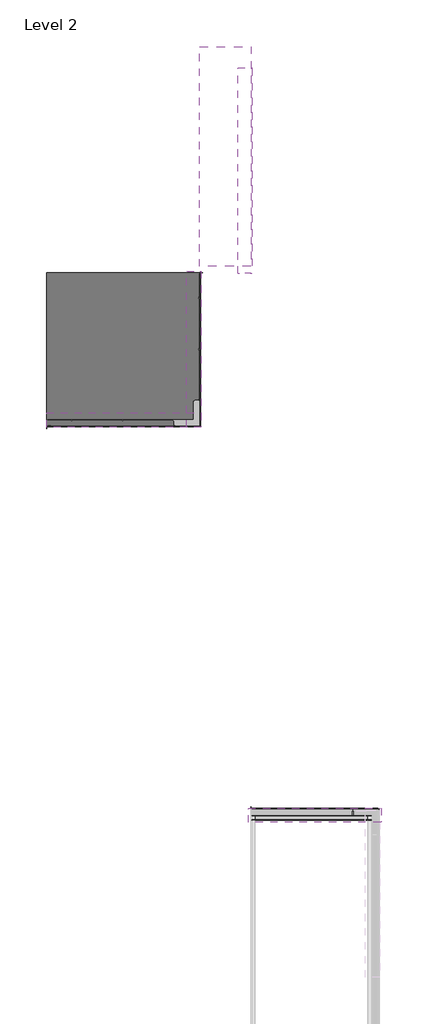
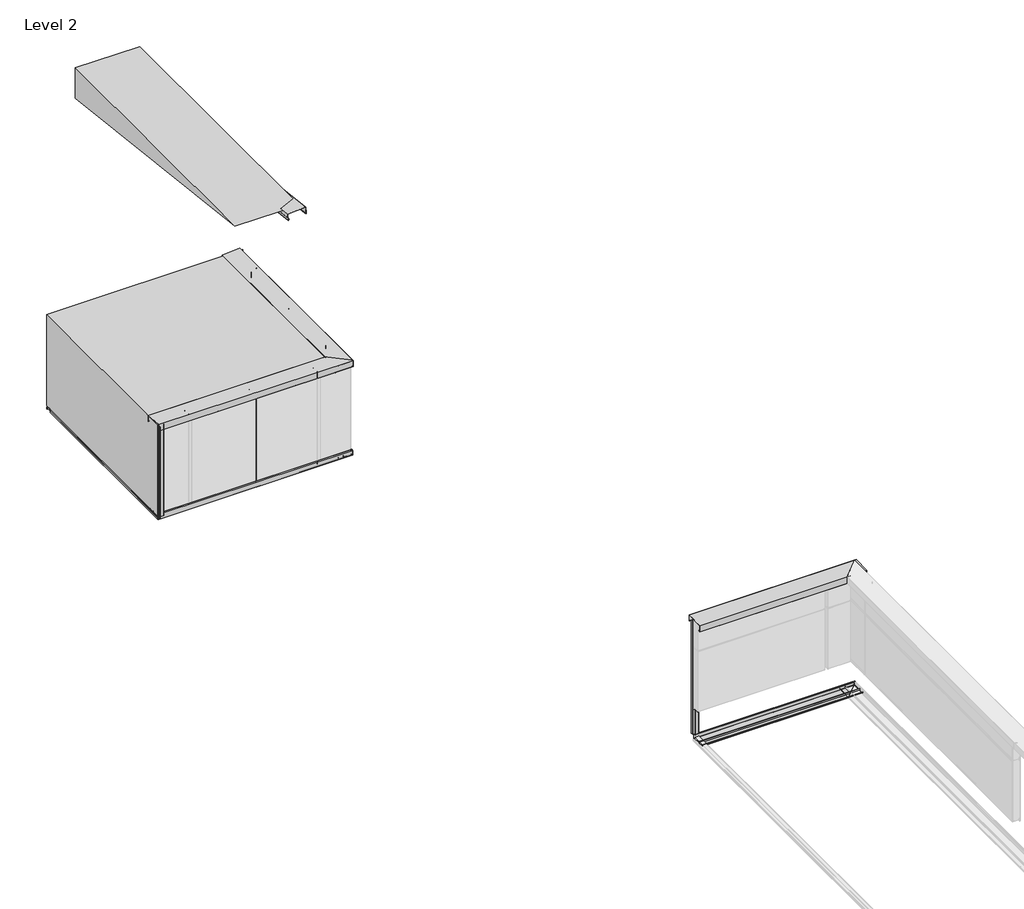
# One storey, part 2 of 2: 12 beams, 2 proxies.
"""IFC4 building model written with IfcOpenShell, lengths in millimetres."""

from ifc_helpers import new_model, si_unit, frame, origin, place, context, project, spatial, polyline, outline, extrude, faceted_brep, transform, mapped, element, save
from components import internal_corner_3a0d7155

model = new_model("IFC4")

# Units and contexts
model_context = context("Model", 3, world=origin())
ifc_project = project(units=[si_unit("LENGTHUNIT", "METRE", prefix="MILLI")], contexts=[model_context])

# Site, building, storey
site = spatial("IfcSite", under=ifc_project)
building = spatial("IfcBuilding", under=site)
storey = spatial("IfcBuildingStorey", under=building, Name="Level 2", Elevation=4000.0)

# Beams
placement = place(None, origin())
element("IfcBeam", 1, ObjectType="TI-V-05_01_Internal corner i_BEAM : Internal corner", at=placement, inside=storey, context=model_context, shape_type="SweptSolid", body=[
    extrude(outline(polyline([(-7916.9160895, 951.1599295), (-7912.1538191, 968.9329647), (-7909.4492268, 968.2082714), (-7914.8085749, 948.2069121), (-7989.7155057, 948.2069121), (-7989.7155057, 918.2069121), (-7992.5155057, 918.2069121), (-7992.5155057, 938.6069121), (-7991.7155057, 938.6069121), (-7991.7155057, 919.0069121), (-7990.5155057, 919.0069121), (-7990.5155057, 949.0069121), (-7915.4224364, 949.0069121), (-7910.4290227, 967.6425859), (-7911.5881337, 967.9531688), (-7916.1433489, 950.9528743), (-7916.9160895, 951.1599295)])), frame((0.0, 0.0, 4150.0), z_axis=(0.0, 0.0, 1.0), x_axis=(1.0, 0.0, 0.0)), (0.0, 0.0, 1.0), 1500.0),
    extrude(outline(polyline([(-7913.653786, 967.2069121), (-7963.1324958, 967.2069121), (-7963.1324958, 968.0069121), (-7912.6112057, 968.0069121), (-7916.6284112, 953.0144971), (-7917.4011518, 953.2215524), (-7913.653786, 967.2069121)])), frame((0.0, 0.0, 4150.0), z_axis=(0.0, 0.0, 1.0), x_axis=(1.0, 0.0, 0.0)), (0.0, 0.0, 1.0), 1500.0),
])
element("IfcBeam", 2, ObjectType="TI-V-05_01_Internal corner i_BEAM : Internal corner", at=placement, inside=storey, context=model_context, shape_type="SweptSolid", body=[
    extrude(outline(polyline([(-4975.668523, 3892.407496), (-4975.4614678, 3891.6347554), (-4992.4617623, 3887.0795402), (-4992.1511795, 3885.9204292), (-4973.5155057, 3890.9138429), (-4973.5155057, 3966.0069121), (-4943.5155057, 3966.0069121), (-4943.5155057, 3967.2069121), (-4963.1155057, 3967.2069121), (-4963.1155057, 3968.0069121), (-4942.7155057, 3968.0069121), (-4942.7155057, 3965.2069121), (-4972.7155057, 3965.2069121), (-4972.7155057, 3890.2999813), (-4992.7168649, 3884.9406333), (-4993.4415582, 3887.6452256), (-4975.668523, 3892.407496)])), frame((0.0, 0.0, 4150.0), z_axis=(0.0, 0.0, 1.0), x_axis=(1.0, 0.0, 0.0)), (0.0, 0.0, 1.0), 1500.0),
    extrude(outline(polyline([(-4991.7155057, 3889.1451925), (-4977.7301459, 3892.8925583), (-4977.5230906, 3892.1198177), (-4992.5155057, 3888.1026122), (-4992.5155057, 3938.6239023), (-4991.7155057, 3938.6239023), (-4991.7155057, 3889.1451925)])), frame((0.0, 0.0, 4150.0), z_axis=(0.0, 0.0, 1.0), x_axis=(1.0, 0.0, 0.0)), (0.0, 0.0, 1.0), 1500.0),
])
element("IfcBeam", 3, ObjectType="TI-V-05_01_Internal corner i_BEAM : Internal corner", at=placement, inside=storey, context=model_context, shape_type="SweptSolid", body=[
    extrude(outline(polyline([(4131.5530174, -7916.9160895), (4131.3459621, -7916.1433489), (4148.3462567, -7911.5881337), (4148.0356738, -7910.4290227), (4129.4, -7915.4224364), (4129.4, -7990.5155057), (4099.4, -7990.5155057), (4099.4, -7991.7155057), (4119.0, -7991.7155057), (4119.0, -7992.5155057), (4098.6, -7992.5155057), (4098.6, -7989.7155057), (4128.6, -7989.7155057), (4128.6, -7914.8085749), (4148.6013592, -7909.4492268), (4149.3260526, -7912.1538191), (4131.5530174, -7916.9160895)])), frame((0.0, 969.6069121, 0.0), z_axis=(0.0, 1.0, 0.0), x_axis=(0.0, 0.0, 1.0)), (0.0, 0.0, 1.0), 2902.6337211),
    extrude(outline(polyline([(4147.6, -7913.653786), (4133.6146402, -7917.4011518), (4133.407585, -7916.6284112), (4148.4, -7912.6112057), (4148.4, -7963.1324958), (4147.6, -7963.1324958), (4147.6, -7913.653786)])), frame((0.0, 969.6069121, 0.0), z_axis=(0.0, 1.0, 0.0), x_axis=(0.0, 0.0, 1.0)), (0.0, 0.0, 1.0), 2902.6337211),
])
element("IfcBeam", 4, ObjectType="TI-V-05_01_Internal corner i_BEAM : Internal corner", at=placement, inside=storey, context=model_context, shape_type="SweptSolid", body=[
    extrude(outline(polyline([(3892.407496, 4131.5530174), (3891.6347554, 4131.3459621), (3887.0795402, 4148.3462567), (3885.9204292, 4148.0356738), (3890.9138429, 4129.4), (3966.0069121, 4129.4), (3966.0069121, 4099.4), (3967.2069121, 4099.4), (3967.2069121, 4119.0), (3968.0069121, 4119.0), (3968.0069121, 4098.6), (3965.2069121, 4098.6), (3965.2069121, 4128.6), (3890.2999813, 4128.6), (3884.9406333, 4148.6013592), (3887.6452256, 4149.3260526), (3892.407496, 4131.5530174)])), frame((-7994.1155057, 0.0, 0.0), z_axis=(1.0, 0.0, 0.0), x_axis=(0.0, 1.0, 0.0)), (0.0, 0.0, 1.0), 3000.0),
    extrude(outline(polyline([(3889.1451925, 4147.6), (3892.8925583, 4133.6146402), (3892.1198177, 4133.407585), (3888.1026122, 4148.4), (3938.6239023, 4148.4), (3938.6239023, 4147.6), (3889.1451925, 4147.6)])), frame((-7994.1155057, 0.0, 0.0), z_axis=(1.0, 0.0, 0.0), x_axis=(0.0, 1.0, 0.0)), (0.0, 0.0, 1.0), 3000.0),
])
internal_corner_shape = internal_corner_3a0d7155(model_context)
element("IfcBeam", 5, ObjectType="TE-H-05_02_Internal corner i_BEAM : Internal corner", at=placement, inside=storey, context=model_context, shape_type="MappedRepresentation", body=[
    mapped(internal_corner_shape, transform((-3994.1155057, -6530.3930879, 4650.0), x_axis=(0.0, 0.0, -1.0), y_axis=(1.0, 0.0, 0.0), z_axis=(0.0, -1.0, 0.0))),
])
element("IfcBeam", 6, ObjectType="TI-V-03_01_Top parapet_BEAM : Top parapet", at=placement, inside=storey, context=model_context, shape_type="Brep", body=[
    faceted_brep([(-4970.7155057, 964.0017389, 5587.9605122), (-4970.7155057, 947.0069121, 5570.9656854), (-4970.7155057, 947.0069121, 5669.5784879), (-4970.7155057, 1222.2069121, 5655.1558671), (-4970.7155057, 1222.2069121, 5556.5011383), (-4970.7155057, 1205.2120853, 5573.4959652), (-4970.7155057, 1204.6463999, 5572.9302797), (-4970.7155057, 1223.0069121, 5554.5697675), (-4970.7155057, 1223.0069121, 5655.9150387), (-4970.7155057, 946.2069121, 5670.4215121), (-4970.7155057, 946.2069121, 5569.0343146), (-4970.7155057, 964.5674244, 5587.3948268), (-7994.1155057, 964.0017389, 5587.9605122), (-7994.1155057, 964.5674244, 5587.3948268), (-7994.1155057, 946.2069121, 5569.0343146), (-7994.1155057, 946.2069121, 5670.4215121), (-7994.1155057, 1223.0069121, 5655.9150387), (-7994.1155057, 1223.0069121, 5554.5697675), (-7994.1155057, 1204.6463999, 5572.9302797), (-7994.1155057, 1205.2120853, 5573.4959652), (-7994.1155057, 1222.2069121, 5556.5011383), (-7994.1155057, 1222.2069121, 5655.1558671), (-7994.1155057, 947.0069121, 5669.5784879), (-7994.1155057, 947.0069121, 5570.9656854)], [[[0, 1, 2, 3, 4, 5, 6, 7, 8, 9, 10, 11]], [[12, 13, 14, 15, 16, 17, 18, 19, 20, 21, 22, 23]], [[1, 0, 12, 23]], [[2, 1, 23, 22]], [[3, 2, 22, 21]], [[4, 3, 21, 20]], [[5, 4, 20, 19]], [[6, 5, 19, 18]], [[7, 6, 18, 17]], [[8, 7, 17, 16]], [[9, 8, 16, 15]], [[10, 9, 15, 14]], [[11, 10, 14, 13]], [[0, 11, 13, 12]]]),
    faceted_brep([(-7994.1155057, 964.0017389, 5587.9605122), (-7994.1155057, 964.5674244, 5587.3948268), (-7994.1155057, 946.2069121, 5569.0343146), (-7994.1155057, 946.2069121, 5670.4215121), (-7994.1155057, 1223.0069121, 5655.9150387), (-7994.1155057, 1223.0069121, 5554.5697675), (-7994.1155057, 1204.6463999, 5572.9302797), (-7994.1155057, 1205.2120853, 5573.4959652), (-7994.1155057, 1222.2069121, 5556.5011383), (-7994.1155057, 1222.2069121, 5655.1558671), (-7994.1155057, 947.0069121, 5669.5784879), (-7994.1155057, 947.0069121, 5570.9656854), (-4989.0760179, 964.5674244, 5587.3948268), (-4988.5103325, 964.0017389, 5587.9605122), (-4970.7155057, 946.2069121, 5569.0343146), (-4970.7155057, 946.2069121, 5670.4215121), (-5247.5155057, 1223.0069121, 5655.9150387), (-5247.5155057, 1223.0069121, 5554.5697675), (-5229.1549934, 1204.6463999, 5572.9302797), (-5229.7206788, 1205.2120853, 5573.4959652), (-5246.7155057, 1222.2069121, 5556.5011383), (-5246.7155057, 1222.2069121, 5655.1558671), (-4971.5155057, 947.0069121, 5669.5784879), (-4971.5155057, 947.0069121, 5570.9656854)], [[[0, 1, 2, 3, 4, 5, 6, 7, 8, 9, 10, 11]], [[12, 1, 0, 13]], [[14, 2, 1, 12]], [[15, 3, 2, 14]], [[16, 4, 3, 15]], [[17, 5, 4, 16]], [[18, 6, 5, 17]], [[19, 7, 6, 18]], [[20, 8, 7, 19]], [[21, 9, 8, 20]], [[22, 10, 9, 21]], [[23, 11, 10, 22]], [[13, 0, 11, 23]], [[13, 23, 22, 21, 20, 19, 18, 17, 16, 15, 14, 12]]]),
])
element("IfcBeam", 7, ObjectType="TI-V-03_01_Top parapet_BEAM : Top parapet", at=placement, inside=storey, context=model_context, shape_type="Brep", body=[
    faceted_brep([(-4988.5103325, 3993.0069121, 5587.9605122), (-4971.5155057, 3993.0069121, 5570.9656854), (-4971.5155057, 3993.0069121, 5669.5784879), (-5246.7155057, 3993.0069121, 5655.1558671), (-5246.7155057, 3993.0069121, 5556.5011383), (-5229.7206788, 3993.0069121, 5573.4959652), (-5229.1549934, 3993.0069121, 5572.9302797), (-5247.5155057, 3993.0069121, 5554.5697675), (-5247.5155057, 3993.0069121, 5655.9150387), (-4970.7155057, 3993.0069121, 5670.4215121), (-4970.7155057, 3993.0069121, 5569.0343146), (-4989.0760179, 3993.0069121, 5587.3948268), (-4988.5103325, 946.2069121, 5587.9605122), (-4989.0760179, 946.2069121, 5587.3948268), (-4970.7155057, 946.2069121, 5569.0343146), (-4970.7155057, 946.2069121, 5670.4215121), (-5247.5155057, 946.2069121, 5655.9150387), (-5247.5155057, 946.2069121, 5554.5697675), (-5229.1549934, 946.2069121, 5572.9302797), (-5229.7206788, 946.2069121, 5573.4959652), (-5246.7155057, 946.2069121, 5556.5011383), (-5246.7155057, 946.2069121, 5655.1558671), (-4971.5155057, 946.2069121, 5669.5784879), (-4971.5155057, 946.2069121, 5570.9656854)], [[[0, 1, 2, 3, 4, 5, 6, 7, 8, 9, 10, 11]], [[12, 13, 14, 15, 16, 17, 18, 19, 20, 21, 22, 23]], [[1, 0, 12, 23]], [[2, 1, 23, 22]], [[3, 2, 22, 21]], [[4, 3, 21, 20]], [[5, 4, 20, 19]], [[6, 5, 19, 18]], [[7, 6, 18, 17]], [[8, 7, 17, 16]], [[9, 8, 16, 15]], [[10, 9, 15, 14]], [[11, 10, 14, 13]], [[0, 11, 13, 12]]]),
    faceted_brep([(-4988.5103325, 3993.0069121, 5587.9605122), (-4971.5155057, 3993.0069121, 5570.9656854), (-4971.5155057, 3993.0069121, 5669.5784879), (-5246.7155057, 3993.0069121, 5655.1558671), (-5246.7155057, 3993.0069121, 5556.5011383), (-5229.7206788, 3993.0069121, 5573.4959652), (-5229.1549934, 3993.0069121, 5572.9302797), (-5247.5155057, 3993.0069121, 5554.5697675), (-5247.5155057, 3993.0069121, 5655.9150387), (-4970.7155057, 3993.0069121, 5670.4215121), (-4970.7155057, 3993.0069121, 5569.0343146), (-4989.0760179, 3993.0069121, 5587.3948268), (-4988.5103325, 964.0017389, 5587.9605122), (-4971.5155057, 947.0069121, 5570.9656854), (-4971.5155057, 947.0069121, 5669.5784879), (-5246.7155057, 1222.2069121, 5655.1558671), (-5246.7155057, 1222.2069121, 5556.5011383), (-5229.7206788, 1205.2120853, 5573.4959652), (-5229.1549934, 1204.6463999, 5572.9302797), (-5247.5155057, 1223.0069121, 5554.5697675), (-5247.5155057, 1223.0069121, 5655.9150387), (-4970.7155057, 946.2069121, 5670.4215121), (-4970.7155057, 946.2069121, 5569.0343146), (-4989.0760179, 964.5674244, 5587.3948268)], [[[0, 1, 2, 3, 4, 5, 6, 7, 8, 9, 10, 11]], [[1, 0, 12, 13]], [[2, 1, 13, 14]], [[3, 2, 14, 15]], [[4, 3, 15, 16]], [[5, 4, 16, 17]], [[6, 5, 17, 18]], [[7, 6, 18, 19]], [[8, 7, 19, 20]], [[9, 8, 20, 21]], [[10, 9, 21, 22]], [[11, 10, 22, 23]], [[0, 11, 23, 12]], [[13, 12, 23, 22, 21, 20, 19, 18, 17, 16, 15, 14]]]),
])
element("IfcBeam", 8, ObjectType="TE-H-03_02_Top parapet_BEAM : Top parapet", at=placement, inside=storey, context=model_context, shape_type="Brep", body=[
    faceted_brep([(-4040.7817612, -6524.7879147, 5592.9605122), (-4040.7817612, -6507.7930879, 5575.9656854), (-4040.7817612, -6507.7930879, 5674.5784879), (-4040.7817612, -6782.9930879, 5660.1558671), (-4040.7817612, -6782.9930879, 5561.5011383), (-4040.7817612, -6765.9982611, 5578.4959652), (-4040.7817612, -6765.4325756, 5577.9302797), (-4040.7817612, -6783.7930879, 5559.5697675), (-4040.7817612, -6783.7930879, 5660.9150387), (-4040.7817612, -6506.9930879, 5675.4215121), (-4040.7817612, -6506.9930879, 5574.0343146), (-4040.7817612, -6525.3536001, 5592.3948268), (-1441.3876719, -6524.7879147, 5592.9605122), (-1441.3876719, -6525.3536001, 5592.3948268), (-1441.3876719, -6506.9930879, 5574.0343146), (-1441.3876719, -6506.9930879, 5675.4215121), (-1441.3876719, -6783.7930879, 5660.9150387), (-1441.3876719, -6783.7930879, 5559.5697675), (-1441.3876719, -6765.4325756, 5577.9302797), (-1441.3876719, -6765.9982611, 5578.4959652), (-1441.3876719, -6782.9930879, 5561.5011383), (-1441.3876719, -6782.9930879, 5660.1558671), (-1441.3876719, -6507.7930879, 5674.5784879), (-1441.3876719, -6507.7930879, 5575.9656854)], [[[0, 1, 2, 3, 4, 5, 6, 7, 8, 9, 10, 11]], [[12, 13, 14, 15, 16, 17, 18, 19, 20, 21, 22, 23]], [[1, 0, 12, 23]], [[2, 1, 23, 22]], [[3, 2, 22, 21]], [[4, 3, 21, 20]], [[5, 4, 20, 19]], [[6, 5, 19, 18]], [[7, 6, 18, 17]], [[8, 7, 17, 16]], [[9, 8, 16, 15]], [[10, 9, 15, 14]], [[11, 10, 14, 13]], [[0, 11, 13, 12]]]),
    faceted_brep([(-4040.7817612, -6524.7879147, 5592.9605122), (-4040.7817612, -6507.7930879, 5575.9656854), (-4040.7817612, -6507.7930879, 5674.5784879), (-4040.7817612, -6782.9930879, 5660.1558671), (-4040.7817612, -6782.9930879, 5561.5011383), (-4040.7817612, -6765.9982611, 5578.4959652), (-4040.7817612, -6765.4325756, 5577.9302797), (-4040.7817612, -6783.7930879, 5559.5697675), (-4040.7817612, -6783.7930879, 5660.9150387), (-4040.7817612, -6506.9930879, 5675.4215121), (-4040.7817612, -6506.9930879, 5574.0343146), (-4040.7817612, -6525.3536001, 5592.3948268), (-1488.5092352, -6524.7879147, 5592.9605122), (-1471.5144084, -6507.7930879, 5575.9656854), (-1471.5144084, -6507.7930879, 5674.5784879), (-1746.7144084, -6782.9930879, 5660.1558671), (-1746.7144084, -6782.9930879, 5561.5011383), (-1729.7195816, -6765.9982611, 5578.4959652), (-1729.1538961, -6765.4325756, 5577.9302797), (-1747.5144084, -6783.7930879, 5559.5697675), (-1747.5144084, -6783.7930879, 5660.9150387), (-1470.7144084, -6506.9930879, 5675.4215121), (-1470.7144084, -6506.9930879, 5574.0343146), (-1489.0749206, -6525.3536001, 5592.3948268)], [[[0, 1, 2, 3, 4, 5, 6, 7, 8, 9, 10, 11]], [[1, 0, 12, 13]], [[2, 1, 13, 14]], [[3, 2, 14, 15]], [[4, 3, 15, 16]], [[5, 4, 16, 17]], [[6, 5, 17, 18]], [[7, 6, 18, 19]], [[8, 7, 19, 20]], [[9, 8, 20, 21]], [[10, 9, 21, 22]], [[11, 10, 22, 23]], [[0, 11, 23, 12]], [[13, 12, 23, 22, 21, 20, 19, 18, 17, 16, 15, 14]]]),
])
element("IfcBeam", 9, ObjectType="TI-V-03_01_Top parapet_BEAM : Top parapet", at=placement, inside=storey, context=model_context, shape_type="Brep", body=[
    faceted_brep([(-3988.5103325, 7962.441298, 5467.2129283), (-3971.5155057, 7960.4783809, 5450.3318413), (-3971.5155057, 7971.8682442, 5548.2846659), (-4246.7155057, 7970.2024191, 5533.9585701), (-4246.7155057, 7958.8077133, 5435.9641), (-4229.7206788, 7960.7706304, 5452.8451869), (-4229.1549934, 7960.7052932, 5452.2832874), (-4247.5155057, 7958.5846383, 5434.0456551), (-4247.5155057, 7970.2901041, 5534.712661), (-3970.7155057, 7971.9656142, 5549.1220479), (-3970.7155057, 7960.2553059, 5448.4133964), (-3989.0760179, 7962.3759608, 5466.6510287), (-3988.5103325, 3946.084948, 5934.2311085), (-3989.0760179, 3946.0196108, 5933.669209), (-3970.7155057, 3943.8989559, 5915.4315767), (-3970.7155057, 3955.6092642, 6016.1402282), (-4247.5155057, 3953.9337541, 6001.7308412), (-4247.5155057, 3942.2282883, 5901.0638353), (-4229.1549934, 3944.3489432, 5919.3014676), (-4229.7206788, 3944.4142804, 5919.8633671), (-4246.7155057, 3942.4513633, 5902.9822802), (-4246.7155057, 3953.8460691, 6000.9767504), (-3971.5155057, 3955.5118942, 6015.3028461), (-3971.5155057, 3944.1220309, 5917.3500216)], [[[0, 1, 2, 3, 4, 5, 6, 7, 8, 9, 10, 11]], [[12, 13, 14, 15, 16, 17, 18, 19, 20, 21, 22, 23]], [[1, 0, 12, 23]], [[2, 1, 23, 22]], [[3, 2, 22, 21]], [[4, 3, 21, 20]], [[5, 4, 20, 19]], [[6, 5, 19, 18]], [[7, 6, 18, 17]], [[8, 7, 17, 16]], [[9, 8, 16, 15]], [[10, 9, 15, 14]], [[11, 10, 14, 13]], [[0, 11, 13, 12]]]),
    faceted_brep([(-3988.5103325, 7962.441298, 5467.2129283), (-3971.5155057, 7960.4783809, 5450.3318413), (-3971.5155057, 7971.8682442, 5548.2846659), (-4246.7155057, 7970.2024191, 5533.9585701), (-4246.7155057, 7958.8077133, 5435.9641), (-4229.7206788, 7960.7706304, 5452.8451869), (-4229.1549934, 7960.7052932, 5452.2832874), (-4247.5155057, 7958.5846383, 5434.0456551), (-4247.5155057, 7970.2901041, 5534.712661), (-3970.7155057, 7971.9656142, 5549.1220479), (-3970.7155057, 7960.2553059, 5448.4133964), (-3989.0760179, 7962.3759608, 5466.6510287), (-3988.5103325, 3964.0017389, 5932.1477607), (-3971.5155057, 3947.0069121, 5917.0145703), (-3971.5155057, 3947.0069121, 5942.16), (-3971.5155057, 3955.5118942, 6015.3028461), (-3979.9693156, 3955.4607221, 6014.8627658), (-4246.7155057, 4222.2069121, 5969.7720012), (-4246.7155057, 4222.2069121, 5870.4525652), (-4229.7206788, 4205.2120853, 5889.538041), (-4229.1549934, 4204.6463999, 5889.0343215), (-4247.5155057, 4223.0069121, 5868.4151581), (-4247.5155057, 4223.0069121, 5970.4432647), (-3980.0612864, 3955.5526929, 6015.6537146), (-3970.7155057, 3955.6092642, 6016.1402282), (-3970.7155057, 3946.2069121, 5935.28), (-3970.7155057, 3946.2069121, 5915.1632097), (-3989.0760179, 3964.5674244, 5931.5124865)], [[[0, 1, 2, 3, 4, 5, 6, 7, 8, 9, 10, 11]], [[1, 0, 12, 13]], [[2, 1, 13, 14, 15]], [[3, 2, 15, 16, 17]], [[4, 3, 17, 18]], [[5, 4, 18, 19]], [[6, 5, 19, 20]], [[7, 6, 20, 21]], [[8, 7, 21, 22]], [[9, 8, 22, 23, 24]], [[10, 9, 24, 25, 26]], [[11, 10, 26, 27]], [[0, 11, 27, 12]], [[25, 24, 23, 16, 15, 14]], [[25, 14, 13, 12, 27, 26]], [[16, 23, 22, 21, 20, 19, 18, 17]]]),
])
element("IfcBeam", 10, ObjectType="TE-H-12_2_ Soffit i_BEAM : soffit", at=placement, inside=storey, context=model_context, shape_type="Brep", body=[
    faceted_brep([(-7994.1155057, 951.6425852, 4187.5217497), (-7994.1155057, 968.6428797, 4192.0769649), (-7994.1155057, 968.3322969, 4193.2360759), (-7994.1155057, 949.6966231, 4188.2426622), (-7994.1155057, 949.6966231, 4114.5152784), (-7994.1155057, 966.6914499, 4131.5101052), (-7994.1155057, 967.2571353, 4130.9444198), (-7994.1155057, 948.8966231, 4112.5839075), (-7994.1155057, 948.8966231, 4188.8565238), (-7994.1155057, 968.8979823, 4194.2158718), (-7994.1155057, 969.6226756, 4191.5112795), (-7994.1155057, 951.8496404, 4186.7490091), (-4973.4052166, 951.6425852, 4187.5217497), (-4973.4052166, 951.8496404, 4186.7490091), (-4973.4052166, 969.6226756, 4191.5112795), (-4973.4052166, 968.8979823, 4194.2158718), (-4973.4052166, 948.8966231, 4188.8565238), (-4973.4052166, 948.8966231, 4112.5839075), (-4973.4052166, 967.2571353, 4130.9444198), (-4973.4052166, 966.6914499, 4131.5101052), (-4973.4052166, 949.6966231, 4114.5152784), (-4973.4052166, 949.6966231, 4188.2426622), (-4973.4052166, 968.3322969, 4193.2360759), (-4973.4052166, 968.6428797, 4192.0769649)], [[[0, 1, 2, 3, 4, 5, 6, 7, 8, 9, 10, 11]], [[12, 13, 14, 15, 16, 17, 18, 19, 20, 21, 22, 23]], [[1, 0, 12, 23]], [[2, 1, 23, 22]], [[3, 2, 22, 21]], [[4, 3, 21, 20]], [[5, 4, 20, 19]], [[6, 5, 19, 18]], [[7, 6, 18, 17]], [[8, 7, 17, 16]], [[9, 8, 16, 15]], [[10, 9, 15, 14]], [[11, 10, 14, 13]], [[0, 11, 13, 12]]]),
    faceted_brep([(-7994.1155057, 951.595061, 4118.4538591), (-7994.1155057, 965.8543539, 4132.713152), (-7994.1155057, 1095.6200394, 4132.713152), (-7994.1155057, 1095.6200394, 4157.713152), (-7994.1155057, 1098.4200394, 4157.713152), (-7994.1155057, 1098.4200394, 4129.713152), (-7994.1155057, 1172.7131086, 4129.713152), (-7994.1155057, 1177.7065223, 4148.3488258), (-7994.1155057, 1176.5474113, 4148.6594087), (-7994.1155057, 1171.9921961, 4131.6591141), (-7994.1155057, 1171.2194555, 4131.8661694), (-7994.1155057, 1175.9817259, 4149.6392046), (-7994.1155057, 1178.6863182, 4148.9145113), (-7994.1155057, 1173.3269702, 4128.913152), (-7994.1155057, 1097.6200394, 4128.913152), (-7994.1155057, 1097.6200394, 4156.913152), (-7994.1155057, 1096.4200394, 4156.913152), (-7994.1155057, 1096.4200394, 4131.913152), (-7994.1155057, 966.1857248, 4131.913152), (-7994.1155057, 952.1607465, 4117.8881737), (-4973.4052166, 951.595061, 4118.4538591), (-4973.4052166, 952.1607465, 4117.8881737), (-4973.4052166, 966.1857248, 4131.913152), (-4973.4052166, 1096.4200394, 4131.913152), (-4973.4052166, 1096.4200394, 4156.913152), (-4973.4052166, 1097.6200394, 4156.913152), (-4973.4052166, 1097.6200394, 4128.913152), (-4973.4052166, 1173.3269702, 4128.913152), (-4973.4052166, 1178.6863182, 4148.9145113), (-4973.4052166, 1175.9817259, 4149.6392046), (-4973.4052166, 1171.2194555, 4131.8661694), (-4973.4052166, 1171.9921961, 4131.6591141), (-4973.4052166, 1176.5474113, 4148.6594087), (-4973.4052166, 1177.7065223, 4148.3488258), (-4973.4052166, 1172.7131086, 4129.713152), (-4973.4052166, 1098.4200394, 4129.713152), (-4973.4052166, 1098.4200394, 4157.713152), (-4973.4052166, 1095.6200394, 4157.713152), (-4973.4052166, 1095.6200394, 4132.713152), (-4973.4052166, 965.8543539, 4132.713152)], [[[0, 1, 2, 3, 4, 5, 6, 7, 8, 9, 10, 11, 12, 13, 14, 15, 16, 17, 18, 19]], [[20, 21, 22, 23, 24, 25, 26, 27, 28, 29, 30, 31, 32, 33, 34, 35, 36, 37, 38, 39]], [[1, 0, 20, 39]], [[2, 1, 39, 38]], [[3, 2, 38, 37]], [[4, 3, 37, 36]], [[5, 4, 36, 35]], [[6, 5, 35, 34]], [[7, 6, 34, 33]], [[8, 7, 33, 32]], [[9, 8, 32, 31]], [[10, 9, 31, 30]], [[11, 10, 30, 29]], [[12, 11, 29, 28]], [[13, 12, 28, 27]], [[14, 13, 27, 26]], [[15, 14, 26, 25]], [[16, 15, 25, 24]], [[17, 16, 24, 23]], [[18, 17, 23, 22]], [[19, 18, 22, 21]], [[0, 19, 21, 20]]]),
    faceted_brep([(-7994.1155057, 951.6425852, 4187.5217497), (-7994.1155057, 968.6428797, 4192.0769649), (-7994.1155057, 968.3322969, 4193.2360759), (-7994.1155057, 949.6966231, 4188.2426622), (-7994.1155057, 949.6966231, 4114.5152784), (-7994.1155057, 966.6914499, 4131.5101052), (-7994.1155057, 967.2571353, 4130.9444198), (-7994.1155057, 948.8966231, 4112.5839075), (-7994.1155057, 948.8966231, 4188.8565238), (-7994.1155057, 968.8979823, 4194.2158718), (-7994.1155057, 969.6226756, 4191.5112795), (-7994.1155057, 951.8496404, 4186.7490091), (-4976.1511787, 951.6425852, 4187.5217497), (-4993.1514732, 968.6428797, 4192.0769649), (-4992.8408904, 968.3322969, 4193.2360759), (-4974.2052166, 949.6966231, 4188.2426622), (-4974.2052166, 949.6966231, 4114.5152784), (-4991.2000434, 966.6914499, 4131.5101052), (-4991.7657288, 967.2571353, 4130.9444198), (-4973.4052166, 948.8966231, 4112.5839075), (-4973.4052166, 948.8966231, 4188.8565238), (-4993.4065758, 968.8979823, 4194.2158718), (-4994.1312691, 969.6226756, 4191.5112795), (-4976.3582339, 951.8496404, 4186.7490091)], [[[0, 1, 2, 3, 4, 5, 6, 7, 8, 9, 10, 11]], [[1, 0, 12, 13]], [[2, 1, 13, 14]], [[3, 2, 14, 15]], [[4, 3, 15, 16]], [[5, 4, 16, 17]], [[6, 5, 17, 18]], [[7, 6, 18, 19]], [[8, 7, 19, 20]], [[9, 8, 20, 21]], [[10, 9, 21, 22]], [[11, 10, 22, 23]], [[0, 11, 23, 12]], [[13, 12, 23, 22, 21, 20, 19, 18, 17, 16, 15, 14]]]),
    faceted_brep([(-7994.1155057, 951.595061, 4118.4538591), (-7994.1155057, 965.8543539, 4132.713152), (-7994.1155057, 1095.6200394, 4132.713152), (-7994.1155057, 1095.6200394, 4157.713152), (-7994.1155057, 1098.4200394, 4157.713152), (-7994.1155057, 1098.4200394, 4129.713152), (-7994.1155057, 1172.7131086, 4129.713152), (-7994.1155057, 1177.7065223, 4148.3488258), (-7994.1155057, 1176.5474113, 4148.6594087), (-7994.1155057, 1171.9921961, 4131.6591141), (-7994.1155057, 1171.2194555, 4131.8661694), (-7994.1155057, 1175.9817259, 4149.6392046), (-7994.1155057, 1178.6863182, 4148.9145113), (-7994.1155057, 1173.3269702, 4128.913152), (-7994.1155057, 1097.6200394, 4128.913152), (-7994.1155057, 1097.6200394, 4156.913152), (-7994.1155057, 1096.4200394, 4156.913152), (-7994.1155057, 1096.4200394, 4131.913152), (-7994.1155057, 966.1857248, 4131.913152), (-7994.1155057, 952.1607465, 4117.8881737), (-4976.1036546, 951.595061, 4118.4538591), (-4990.3629475, 965.8543539, 4132.713152), (-5120.1286329, 1095.6200394, 4132.713152), (-5120.1286329, 1095.6200394, 4157.713152), (-5122.9286329, 1098.4200394, 4157.713152), (-5122.9286329, 1098.4200394, 4129.713152), (-5197.2217021, 1172.7131086, 4129.713152), (-5202.2151158, 1177.7065223, 4148.3488258), (-5201.0560049, 1176.5474113, 4148.6594087), (-5196.5007897, 1171.9921961, 4131.6591141), (-5195.728049, 1171.2194555, 4131.8661694), (-5200.4903194, 1175.9817259, 4149.6392046), (-5203.1949117, 1178.6863182, 4148.9145113), (-5197.8355637, 1173.3269702, 4128.913152), (-5122.1286329, 1097.6200394, 4128.913152), (-5122.1286329, 1097.6200394, 4156.913152), (-5120.9286329, 1096.4200394, 4156.913152), (-5120.9286329, 1096.4200394, 4131.913152), (-4990.6943183, 966.1857248, 4131.913152), (-4976.66934, 952.1607465, 4117.8881737)], [[[0, 1, 2, 3, 4, 5, 6, 7, 8, 9, 10, 11, 12, 13, 14, 15, 16, 17, 18, 19]], [[1, 0, 20, 21]], [[2, 1, 21, 22]], [[3, 2, 22, 23]], [[4, 3, 23, 24]], [[5, 4, 24, 25]], [[6, 5, 25, 26]], [[7, 6, 26, 27]], [[8, 7, 27, 28]], [[9, 8, 28, 29]], [[10, 9, 29, 30]], [[11, 10, 30, 31]], [[12, 11, 31, 32]], [[13, 12, 32, 33]], [[14, 13, 33, 34]], [[15, 14, 34, 35]], [[16, 15, 35, 36]], [[17, 16, 36, 37]], [[18, 17, 37, 38]], [[19, 18, 38, 39]], [[0, 19, 39, 20]], [[21, 20, 39, 38, 37, 36, 35, 34, 33, 32, 31, 30, 29, 28, 27, 26, 25, 24, 23, 22]]]),
])
element("IfcBeam", 11, ObjectType="TE-H-12_2_ Soffit i_BEAM : soffit", at=placement, inside=storey, context=model_context, shape_type="Brep", body=[
    faceted_brep([(-4976.1511787, 948.8966231, 4187.5217497), (-4993.1514732, 948.8966231, 4192.0769649), (-4992.8408904, 948.8966231, 4193.2360759), (-4974.2052166, 948.8966231, 4188.2426622), (-4974.2052166, 948.8966231, 4114.5152784), (-4991.2000434, 948.8966231, 4131.5101052), (-4991.7657288, 948.8966231, 4130.9444198), (-4973.4052166, 948.8966231, 4112.5839075), (-4973.4052166, 948.8966231, 4188.8565238), (-4993.4065758, 948.8966231, 4194.2158718), (-4994.1312691, 948.8966231, 4191.5112795), (-4976.3582339, 948.8966231, 4186.7490091), (-4976.1511787, 3969.6069121, 4187.5217497), (-4976.3582339, 3969.6069121, 4186.7490091), (-4994.1312691, 3969.6069121, 4191.5112795), (-4993.4065758, 3969.6069121, 4194.2158718), (-4973.4052166, 3969.6069121, 4188.8565238), (-4973.4052166, 3969.6069121, 4112.5839075), (-4991.7657288, 3969.6069121, 4130.9444198), (-4991.2000434, 3969.6069121, 4131.5101052), (-4974.2052166, 3969.6069121, 4114.5152784), (-4974.2052166, 3969.6069121, 4188.2426622), (-4992.8408904, 3969.6069121, 4193.2360759), (-4993.1514732, 3969.6069121, 4192.0769649)], [[[0, 1, 2, 3, 4, 5, 6, 7, 8, 9, 10, 11]], [[12, 13, 14, 15, 16, 17, 18, 19, 20, 21, 22, 23]], [[1, 0, 12, 23]], [[2, 1, 23, 22]], [[3, 2, 22, 21]], [[4, 3, 21, 20]], [[5, 4, 20, 19]], [[6, 5, 19, 18]], [[7, 6, 18, 17]], [[8, 7, 17, 16]], [[9, 8, 16, 15]], [[10, 9, 15, 14]], [[11, 10, 14, 13]], [[0, 11, 13, 12]]]),
    faceted_brep([(-4976.1036546, 948.8966231, 4118.4538591), (-4990.3629475, 948.8966231, 4132.713152), (-5120.1286329, 948.8966231, 4132.713152), (-5120.1286329, 948.8966231, 4157.713152), (-5122.9286329, 948.8966231, 4157.713152), (-5122.9286329, 948.8966231, 4129.713152), (-5197.2217021, 948.8966231, 4129.713152), (-5202.2151158, 948.8966231, 4148.3488258), (-5201.0560049, 948.8966231, 4148.6594087), (-5196.5007897, 948.8966231, 4131.6591141), (-5195.728049, 948.8966231, 4131.8661694), (-5200.4903194, 948.8966231, 4149.6392046), (-5203.1949117, 948.8966231, 4148.9145113), (-5197.8355637, 948.8966231, 4128.913152), (-5122.1286329, 948.8966231, 4128.913152), (-5122.1286329, 948.8966231, 4156.913152), (-5120.9286329, 948.8966231, 4156.913152), (-5120.9286329, 948.8966231, 4131.913152), (-4990.6943183, 948.8966231, 4131.913152), (-4976.66934, 948.8966231, 4117.8881737), (-4976.1036546, 3969.6069121, 4118.4538591), (-4976.66934, 3969.6069121, 4117.8881737), (-4990.6943183, 3969.6069121, 4131.913152), (-5120.9286329, 3969.6069121, 4131.913152), (-5120.9286329, 3969.6069121, 4156.913152), (-5122.1286329, 3969.6069121, 4156.913152), (-5122.1286329, 3969.6069121, 4128.913152), (-5197.8355637, 3969.6069121, 4128.913152), (-5203.1949117, 3969.6069121, 4148.9145113), (-5200.4903194, 3969.6069121, 4149.6392046), (-5195.728049, 3969.6069121, 4131.8661694), (-5196.5007897, 3969.6069121, 4131.6591141), (-5201.0560049, 3969.6069121, 4148.6594087), (-5202.2151158, 3969.6069121, 4148.3488258), (-5197.2217021, 3969.6069121, 4129.713152), (-5122.9286329, 3969.6069121, 4129.713152), (-5122.9286329, 3969.6069121, 4157.713152), (-5120.1286329, 3969.6069121, 4157.713152), (-5120.1286329, 3969.6069121, 4132.713152), (-4990.3629475, 3969.6069121, 4132.713152)], [[[0, 1, 2, 3, 4, 5, 6, 7, 8, 9, 10, 11, 12, 13, 14, 15, 16, 17, 18, 19]], [[20, 21, 22, 23, 24, 25, 26, 27, 28, 29, 30, 31, 32, 33, 34, 35, 36, 37, 38, 39]], [[1, 0, 20, 39]], [[2, 1, 39, 38]], [[3, 2, 38, 37]], [[4, 3, 37, 36]], [[5, 4, 36, 35]], [[6, 5, 35, 34]], [[7, 6, 34, 33]], [[8, 7, 33, 32]], [[9, 8, 32, 31]], [[10, 9, 31, 30]], [[11, 10, 30, 29]], [[12, 11, 29, 28]], [[13, 12, 28, 27]], [[14, 13, 27, 26]], [[15, 14, 26, 25]], [[16, 15, 25, 24]], [[17, 16, 24, 23]], [[18, 17, 23, 22]], [[19, 18, 22, 21]], [[0, 19, 21, 20]]]),
    faceted_brep([(-4976.1511787, 3969.6069121, 4187.5217497), (-4976.3582339, 3969.6069121, 4186.7490091), (-4994.1312691, 3969.6069121, 4191.5112795), (-4993.4065758, 3969.6069121, 4194.2158718), (-4973.4052166, 3969.6069121, 4188.8565238), (-4973.4052166, 3969.6069121, 4112.5839075), (-4991.7657288, 3969.6069121, 4130.9444198), (-4991.2000434, 3969.6069121, 4131.5101052), (-4974.2052166, 3969.6069121, 4114.5152784), (-4974.2052166, 3969.6069121, 4188.2426622), (-4992.8408904, 3969.6069121, 4193.2360759), (-4993.1514732, 3969.6069121, 4192.0769649), (-4976.3582339, 951.8496404, 4186.7490091), (-4976.1511787, 951.6425852, 4187.5217497), (-4994.1312691, 969.6226756, 4191.5112795), (-4993.4065758, 968.8979823, 4194.2158718), (-4973.4052166, 948.8966231, 4188.8565238), (-4973.4052166, 948.8966231, 4112.5839075), (-4991.7657288, 967.2571353, 4130.9444198), (-4991.2000434, 966.6914499, 4131.5101052), (-4974.2052166, 949.6966231, 4114.5152784), (-4974.2052166, 949.6966231, 4188.2426622), (-4992.8408904, 968.3322969, 4193.2360759), (-4993.1514732, 968.6428797, 4192.0769649)], [[[0, 1, 2, 3, 4, 5, 6, 7, 8, 9, 10, 11]], [[12, 1, 0, 13]], [[14, 2, 1, 12]], [[15, 3, 2, 14]], [[16, 4, 3, 15]], [[17, 5, 4, 16]], [[18, 6, 5, 17]], [[19, 7, 6, 18]], [[20, 8, 7, 19]], [[21, 9, 8, 20]], [[22, 10, 9, 21]], [[23, 11, 10, 22]], [[13, 0, 11, 23]], [[13, 23, 22, 21, 20, 19, 18, 17, 16, 15, 14, 12]]]),
    faceted_brep([(-4976.1036546, 3969.6069121, 4118.4538591), (-4976.66934, 3969.6069121, 4117.8881737), (-4990.6943183, 3969.6069121, 4131.913152), (-5120.9286329, 3969.6069121, 4131.913152), (-5120.9286329, 3969.6069121, 4156.913152), (-5122.1286329, 3969.6069121, 4156.913152), (-5122.1286329, 3969.6069121, 4128.913152), (-5197.8355637, 3969.6069121, 4128.913152), (-5203.1949117, 3969.6069121, 4148.9145113), (-5200.4903194, 3969.6069121, 4149.6392046), (-5195.728049, 3969.6069121, 4131.8661694), (-5196.5007897, 3969.6069121, 4131.6591141), (-5201.0560049, 3969.6069121, 4148.6594087), (-5202.2151158, 3969.6069121, 4148.3488258), (-5197.2217021, 3969.6069121, 4129.713152), (-5122.9286329, 3969.6069121, 4129.713152), (-5122.9286329, 3969.6069121, 4157.713152), (-5120.1286329, 3969.6069121, 4157.713152), (-5120.1286329, 3969.6069121, 4132.713152), (-4990.3629475, 3969.6069121, 4132.713152), (-4976.66934, 952.1607465, 4117.8881737), (-4976.1036546, 951.595061, 4118.4538591), (-4990.6943183, 966.1857248, 4131.913152), (-5120.9286329, 1096.4200394, 4131.913152), (-5120.9286329, 1096.4200394, 4156.913152), (-5122.1286329, 1097.6200394, 4156.913152), (-5122.1286329, 1097.6200394, 4128.913152), (-5197.8355637, 1173.3269702, 4128.913152), (-5203.1949117, 1178.6863182, 4148.9145113), (-5200.4903194, 1175.9817259, 4149.6392046), (-5195.728049, 1171.2194555, 4131.8661694), (-5196.5007897, 1171.9921961, 4131.6591141), (-5201.0560049, 1176.5474113, 4148.6594087), (-5202.2151158, 1177.7065223, 4148.3488258), (-5197.2217021, 1172.7131086, 4129.713152), (-5122.9286329, 1098.4200394, 4129.713152), (-5122.9286329, 1098.4200394, 4157.713152), (-5120.1286329, 1095.6200394, 4157.713152), (-5120.1286329, 1095.6200394, 4132.713152), (-4990.3629475, 965.8543539, 4132.713152)], [[[0, 1, 2, 3, 4, 5, 6, 7, 8, 9, 10, 11, 12, 13, 14, 15, 16, 17, 18, 19]], [[20, 1, 0, 21]], [[22, 2, 1, 20]], [[23, 3, 2, 22]], [[24, 4, 3, 23]], [[25, 5, 4, 24]], [[26, 6, 5, 25]], [[27, 7, 6, 26]], [[28, 8, 7, 27]], [[29, 9, 8, 28]], [[30, 10, 9, 29]], [[31, 11, 10, 30]], [[32, 12, 11, 31]], [[33, 13, 12, 32]], [[34, 14, 13, 33]], [[35, 15, 14, 34]], [[36, 16, 15, 35]], [[37, 17, 16, 36]], [[38, 18, 17, 37]], [[39, 19, 18, 38]], [[21, 0, 19, 39]], [[21, 39, 38, 37, 36, 35, 34, 33, 32, 31, 30, 29, 28, 27, 26, 25, 24, 23, 22, 20]]]),
])
element("IfcBeam", 12, ObjectType="TE-H-12_2_ Soffit i_BEAM : soffit", at=placement, inside=storey, context=model_context, shape_type="Brep", body=[
    faceted_brep([(-1473.4052166, -6512.4287609, 3687.5217497), (-1473.4052166, -6529.4290555, 3692.0769649), (-1473.4052166, -6529.1184726, 3693.2360759), (-1473.4052166, -6510.4827988, 3688.2426622), (-1473.4052166, -6510.4827988, 3614.5152784), (-1473.4052166, -6527.4776256, 3631.5101052), (-1473.4052166, -6528.043311, 3630.9444198), (-1473.4052166, -6509.6827988, 3612.5839075), (-1473.4052166, -6509.6827988, 3688.8565238), (-1473.4052166, -6529.684158, 3694.2158718), (-1473.4052166, -6530.4088514, 3691.5112795), (-1473.4052166, -6512.6358162, 3686.7490091), (-3973.4052166, -6512.4287609, 3687.5217497), (-3973.4052166, -6512.6358162, 3686.7490091), (-3973.4052166, -6530.4088514, 3691.5112795), (-3973.4052166, -6529.684158, 3694.2158718), (-3973.4052166, -6509.6827988, 3688.8565238), (-3973.4052166, -6509.6827988, 3612.5839075), (-3973.4052166, -6528.043311, 3630.9444198), (-3973.4052166, -6527.4776256, 3631.5101052), (-3973.4052166, -6510.4827988, 3614.5152784), (-3973.4052166, -6510.4827988, 3688.2426622), (-3973.4052166, -6529.1184726, 3693.2360759), (-3973.4052166, -6529.4290555, 3692.0769649)], [[[0, 1, 2, 3, 4, 5, 6, 7, 8, 9, 10, 11]], [[12, 13, 14, 15, 16, 17, 18, 19, 20, 21, 22, 23]], [[1, 0, 12, 23]], [[2, 1, 23, 22]], [[3, 2, 22, 21]], [[4, 3, 21, 20]], [[5, 4, 20, 19]], [[6, 5, 19, 18]], [[7, 6, 18, 17]], [[8, 7, 17, 16]], [[9, 8, 16, 15]], [[10, 9, 15, 14]], [[11, 10, 14, 13]], [[0, 11, 13, 12]]]),
    faceted_brep([(-1473.4052166, -6512.3812368, 3618.4538591), (-1473.4052166, -6526.6405297, 3632.713152), (-1473.4052166, -6656.4062151, 3632.713152), (-1473.4052166, -6656.4062151, 3657.713152), (-1473.4052166, -6659.2062151, 3657.713152), (-1473.4052166, -6659.2062151, 3629.713152), (-1473.4052166, -6733.4992843, 3629.713152), (-1473.4052166, -6738.4926981, 3648.3488258), (-1473.4052166, -6737.3335871, 3648.6594087), (-1473.4052166, -6732.7783719, 3631.6591141), (-1473.4052166, -6732.0056312, 3631.8661694), (-1473.4052166, -6736.7679016, 3649.6392046), (-1473.4052166, -6739.472494, 3648.9145113), (-1473.4052166, -6734.1131459, 3628.913152), (-1473.4052166, -6658.4062151, 3628.913152), (-1473.4052166, -6658.4062151, 3656.913152), (-1473.4052166, -6657.2062151, 3656.913152), (-1473.4052166, -6657.2062151, 3631.913152), (-1473.4052166, -6526.9719005, 3631.913152), (-1473.4052166, -6512.9469222, 3617.8881737), (-3973.4052166, -6512.3812368, 3618.4538591), (-3973.4052166, -6512.9469222, 3617.8881737), (-3973.4052166, -6526.9719005, 3631.913152), (-3973.4052166, -6657.2062151, 3631.913152), (-3973.4052166, -6657.2062151, 3656.913152), (-3973.4052166, -6658.4062151, 3656.913152), (-3973.4052166, -6658.4062151, 3628.913152), (-3973.4052166, -6734.1131459, 3628.913152), (-3973.4052166, -6739.472494, 3648.9145113), (-3973.4052166, -6736.7679016, 3649.6392046), (-3973.4052166, -6732.0056312, 3631.8661694), (-3973.4052166, -6732.7783719, 3631.6591141), (-3973.4052166, -6737.3335871, 3648.6594087), (-3973.4052166, -6738.4926981, 3648.3488258), (-3973.4052166, -6733.4992843, 3629.713152), (-3973.4052166, -6659.2062151, 3629.713152), (-3973.4052166, -6659.2062151, 3657.713152), (-3973.4052166, -6656.4062151, 3657.713152), (-3973.4052166, -6656.4062151, 3632.713152), (-3973.4052166, -6526.6405297, 3632.713152)], [[[0, 1, 2, 3, 4, 5, 6, 7, 8, 9, 10, 11, 12, 13, 14, 15, 16, 17, 18, 19]], [[20, 21, 22, 23, 24, 25, 26, 27, 28, 29, 30, 31, 32, 33, 34, 35, 36, 37, 38, 39]], [[1, 0, 20, 39]], [[2, 1, 39, 38]], [[3, 2, 38, 37]], [[4, 3, 37, 36]], [[5, 4, 36, 35]], [[6, 5, 35, 34]], [[7, 6, 34, 33]], [[8, 7, 33, 32]], [[9, 8, 32, 31]], [[10, 9, 31, 30]], [[11, 10, 30, 29]], [[12, 11, 29, 28]], [[13, 12, 28, 27]], [[14, 13, 27, 26]], [[15, 14, 26, 25]], [[16, 15, 25, 24]], [[17, 16, 24, 23]], [[18, 17, 23, 22]], [[19, 18, 22, 21]], [[0, 19, 21, 20]]]),
    faceted_brep([(-3973.4052166, -6512.4287609, 3687.5217497), (-3973.4052166, -6512.6358162, 3686.7490091), (-3973.4052166, -6530.4088514, 3691.5112795), (-3973.4052166, -6529.684158, 3694.2158718), (-3973.4052166, -6509.6827988, 3688.8565238), (-3973.4052166, -6509.6827988, 3612.5839075), (-3973.4052166, -6528.043311, 3630.9444198), (-3973.4052166, -6527.4776256, 3631.5101052), (-3973.4052166, -6510.4827988, 3614.5152784), (-3973.4052166, -6510.4827988, 3688.2426622), (-3973.4052166, -6529.1184726, 3693.2360759), (-3973.4052166, -6529.4290555, 3692.0769649), (-1476.3571367, -6512.6358162, 3686.7490091), (-1476.1500814, -6512.4287609, 3687.5217497), (-1494.1301719, -6530.4088514, 3691.5112795), (-1493.4054785, -6529.684158, 3694.2158718), (-1473.4052166, -6509.6827988, 3688.8565238), (-1473.4052166, -6509.6827988, 3612.5839075), (-1491.7646316, -6528.043311, 3630.9444198), (-1491.1989461, -6527.4776256, 3631.5101052), (-1474.2041193, -6510.4827988, 3614.5152784), (-1474.2041193, -6510.4827988, 3688.2426622), (-1492.8397931, -6529.1184726, 3693.2360759), (-1493.150376, -6529.4290555, 3692.0769649)], [[[0, 1, 2, 3, 4, 5, 6, 7, 8, 9, 10, 11]], [[12, 1, 0, 13]], [[14, 2, 1, 12]], [[15, 3, 2, 14]], [[16, 4, 3, 15]], [[17, 5, 4, 16]], [[18, 6, 5, 17]], [[19, 7, 6, 18]], [[20, 8, 7, 19]], [[21, 9, 8, 20]], [[22, 10, 9, 21]], [[23, 11, 10, 22]], [[13, 0, 11, 23]], [[13, 23, 22, 21, 20, 19, 18, 17, 16, 15, 14, 12]]]),
    faceted_brep([(-3973.4052166, -6512.3812368, 3618.4538591), (-3973.4052166, -6512.9469222, 3617.8881737), (-3973.4052166, -6526.9719005, 3631.913152), (-3973.4052166, -6657.2062151, 3631.913152), (-3973.4052166, -6657.2062151, 3656.913152), (-3973.4052166, -6658.4062151, 3656.913152), (-3973.4052166, -6658.4062151, 3628.913152), (-3973.4052166, -6734.1131459, 3628.913152), (-3973.4052166, -6739.472494, 3648.9145113), (-3973.4052166, -6736.7679016, 3649.6392046), (-3973.4052166, -6732.0056312, 3631.8661694), (-3973.4052166, -6732.7783719, 3631.6591141), (-3973.4052166, -6737.3335871, 3648.6594087), (-3973.4052166, -6738.4926981, 3648.3488258), (-3973.4052166, -6733.4992843, 3629.713152), (-3973.4052166, -6659.2062151, 3629.713152), (-3973.4052166, -6659.2062151, 3657.713152), (-3973.4052166, -6656.4062151, 3657.713152), (-3973.4052166, -6656.4062151, 3632.713152), (-3973.4052166, -6526.6405297, 3632.713152), (-1476.6682427, -6512.9469222, 3617.8881737), (-1476.1025573, -6512.3812368, 3618.4538591), (-1490.693221, -6526.9719005, 3631.913152), (-1620.9275356, -6657.2062151, 3631.913152), (-1620.9275356, -6657.2062151, 3656.913152), (-1622.1275356, -6658.4062151, 3656.913152), (-1622.1275356, -6658.4062151, 3628.913152), (-1697.8344664, -6734.1131459, 3628.913152), (-1703.1938145, -6739.472494, 3648.9145113), (-1700.4892222, -6736.7679016, 3649.6392046), (-1695.7269517, -6732.0056312, 3631.8661694), (-1696.4996924, -6732.7783719, 3631.6591141), (-1701.0549076, -6737.3335871, 3648.6594087), (-1702.2140186, -6738.4926981, 3648.3488258), (-1697.2206048, -6733.4992843, 3629.713152), (-1622.9275356, -6659.2062151, 3629.713152), (-1622.9275356, -6659.2062151, 3657.713152), (-1620.1275356, -6656.4062151, 3657.713152), (-1620.1275356, -6656.4062151, 3632.713152), (-1490.3618502, -6526.6405297, 3632.713152)], [[[0, 1, 2, 3, 4, 5, 6, 7, 8, 9, 10, 11, 12, 13, 14, 15, 16, 17, 18, 19]], [[20, 1, 0, 21]], [[22, 2, 1, 20]], [[23, 3, 2, 22]], [[24, 4, 3, 23]], [[25, 5, 4, 24]], [[26, 6, 5, 25]], [[27, 7, 6, 26]], [[28, 8, 7, 27]], [[29, 9, 8, 28]], [[30, 10, 9, 29]], [[31, 11, 10, 30]], [[32, 12, 11, 31]], [[33, 13, 12, 32]], [[34, 14, 13, 33]], [[35, 15, 14, 34]], [[36, 16, 15, 35]], [[37, 17, 16, 36]], [[38, 18, 17, 37]], [[39, 19, 18, 38]], [[21, 0, 19, 39]], [[21, 39, 38, 37, 36, 35, 34, 33, 32, 31, 30, 29, 28, 27, 26, 25, 24, 23, 22, 20]]]),
])

# Proxies
element("IfcBuildingElementProxy", 13, Name="Mass 4 : Mass 1", ObjectType="Mass 4 : Mass 1", at=placement, inside=storey, context=model_context, shape_type="SweptSolid", body=[
    extrude(outline(polyline([(-4994.1155057, 3969.6069121), (-4994.1155057, 969.6069121), (-7994.1155057, 969.6069121), (-7994.1155057, 3969.6069121), (-4994.1155057, 3969.6069121)])), frame((0.0, 0.0, 4150.0), z_axis=(0.0, 0.0, 1.0), x_axis=(1.0, 0.0, 0.0)), (0.0, 0.0, 1.0), 1500.0),
])
element("IfcBuildingElementProxy", 14, Name="Mass 5 : Mass 2", ObjectType="Mass 5 : Mass 2", at=placement, inside=storey, context=model_context, shape_type="SweptSolid", body=[
    extrude(outline(polyline([(4089.6069121, 5980.0), (8389.6069121, 5980.0), (8389.6069121, 5480.0), (4089.6069121, 5980.0)])), frame((-4994.1155057, 0.0, 0.0), z_axis=(1.0, 0.0, 0.0), x_axis=(0.0, 1.0, 0.0)), (0.0, 0.0, 1.0), 1000.0),
])

save(model, "model.ifc")
